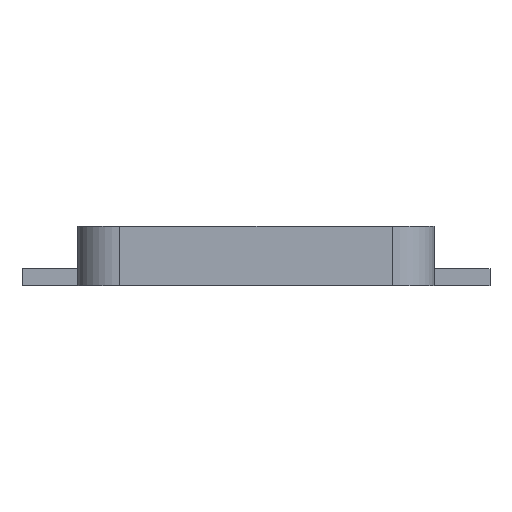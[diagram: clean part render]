
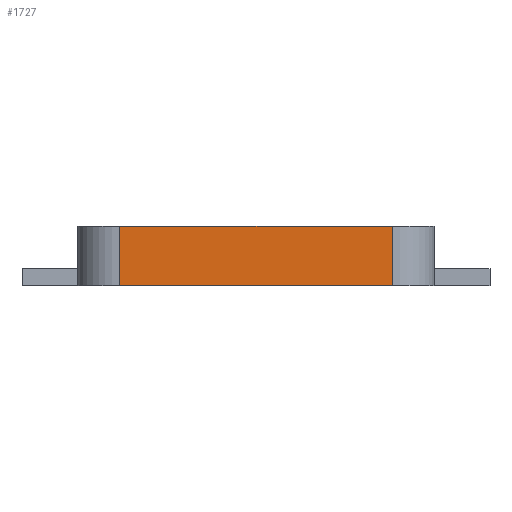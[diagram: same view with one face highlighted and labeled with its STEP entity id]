
A CAD part, front view. The second image highlights one B-rep face of the part: STEP entity #1727.
In plain terms, the highlighted planar face has unit normal (0, -1, 0).
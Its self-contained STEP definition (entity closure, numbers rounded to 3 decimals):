
#44 = CYLINDRICAL_SURFACE('',#45,5.);
#45 = AXIS2_PLACEMENT_3D('',#46,#47,#48);
#46 = CARTESIAN_POINT('',(-16.,-29.5,-27.5));
#47 = DIRECTION('',(0.,0.,1.));
#48 = DIRECTION('',(-1.,-0.,0.));
#72 = PLANE('',#73);
#73 = AXIS2_PLACEMENT_3D('',#74,#75,#76);
#74 = CARTESIAN_POINT('',(-21.,-34.5,-27.5));
#75 = DIRECTION('',(0.,0.,1.));
#76 = DIRECTION('',(1.,0.,0.));
#177 = PLANE('',#178);
#178 = AXIS2_PLACEMENT_3D('',#179,#180,#181);
#179 = CARTESIAN_POINT('',(-21.,-34.5,-20.5));
#180 = DIRECTION('',(0.,0.,1.));
#181 = DIRECTION('',(1.,0.,0.));
#193 = VERTEX_POINT('',#194);
#194 = CARTESIAN_POINT('',(-16.,-34.5,-27.5));
#216 = EDGE_CURVE('',#193,#217,#219,.T.);
#217 = VERTEX_POINT('',#218);
#218 = CARTESIAN_POINT('',(-16.,-34.5,-20.5));
#219 = SURFACE_CURVE('',#220,(#224,#231),.PCURVE_S1.);
#220 = LINE('',#221,#222);
#221 = CARTESIAN_POINT('',(-16.,-34.5,-27.5));
#222 = VECTOR('',#223,1.);
#223 = DIRECTION('',(0.,0.,1.));
#224 = PCURVE('',#44,#225);
#225 = DEFINITIONAL_REPRESENTATION('',(#226),#230);
#226 = LINE('',#227,#228);
#227 = CARTESIAN_POINT('',(1.571,0.));
#228 = VECTOR('',#229,1.);
#229 = DIRECTION('',(0.,1.));
#230 = ( GEOMETRIC_REPRESENTATION_CONTEXT(2) 
PARAMETRIC_REPRESENTATION_CONTEXT() REPRESENTATION_CONTEXT('2D SPACE',''
  ) );
#231 = PCURVE('',#232,#237);
#232 = PLANE('',#233);
#233 = AXIS2_PLACEMENT_3D('',#234,#235,#236);
#234 = CARTESIAN_POINT('',(-21.,-34.5,-27.5));
#235 = DIRECTION('',(0.,1.,0.));
#236 = DIRECTION('',(0.,0.,1.));
#237 = DEFINITIONAL_REPRESENTATION('',(#238),#242);
#238 = LINE('',#239,#240);
#239 = CARTESIAN_POINT('',(0.,5.));
#240 = VECTOR('',#241,1.);
#241 = DIRECTION('',(1.,0.));
#242 = ( GEOMETRIC_REPRESENTATION_CONTEXT(2) 
PARAMETRIC_REPRESENTATION_CONTEXT() REPRESENTATION_CONTEXT('2D SPACE',''
  ) );
#272 = EDGE_CURVE('',#217,#273,#275,.T.);
#273 = VERTEX_POINT('',#274);
#274 = CARTESIAN_POINT('',(16.,-34.5,-20.5));
#275 = SURFACE_CURVE('',#276,(#280,#287),.PCURVE_S1.);
#276 = LINE('',#277,#278);
#277 = CARTESIAN_POINT('',(-21.,-34.5,-20.5));
#278 = VECTOR('',#279,1.);
#279 = DIRECTION('',(1.,0.,0.));
#280 = PCURVE('',#177,#281);
#281 = DEFINITIONAL_REPRESENTATION('',(#282),#286);
#282 = LINE('',#283,#284);
#283 = CARTESIAN_POINT('',(0.,0.));
#284 = VECTOR('',#285,1.);
#285 = DIRECTION('',(1.,0.));
#286 = ( GEOMETRIC_REPRESENTATION_CONTEXT(2) 
PARAMETRIC_REPRESENTATION_CONTEXT() REPRESENTATION_CONTEXT('2D SPACE',''
  ) );
#287 = PCURVE('',#232,#288);
#288 = DEFINITIONAL_REPRESENTATION('',(#289),#293);
#289 = LINE('',#290,#291);
#290 = CARTESIAN_POINT('',(7.,0.));
#291 = VECTOR('',#292,1.);
#292 = DIRECTION('',(0.,1.));
#293 = ( GEOMETRIC_REPRESENTATION_CONTEXT(2) 
PARAMETRIC_REPRESENTATION_CONTEXT() REPRESENTATION_CONTEXT('2D SPACE',''
  ) );
#316 = CYLINDRICAL_SURFACE('',#317,5.);
#317 = AXIS2_PLACEMENT_3D('',#318,#319,#320);
#318 = CARTESIAN_POINT('',(16.,-29.5,-27.5));
#319 = DIRECTION('',(0.,0.,1.));
#320 = DIRECTION('',(1.,0.,-0.));
#1127 = EDGE_CURVE('',#193,#1128,#1130,.T.);
#1128 = VERTEX_POINT('',#1129);
#1129 = CARTESIAN_POINT('',(16.,-34.5,-27.5));
#1130 = SURFACE_CURVE('',#1131,(#1135,#1142),.PCURVE_S1.);
#1131 = LINE('',#1132,#1133);
#1132 = CARTESIAN_POINT('',(-21.,-34.5,-27.5));
#1133 = VECTOR('',#1134,1.);
#1134 = DIRECTION('',(1.,0.,0.));
#1135 = PCURVE('',#72,#1136);
#1136 = DEFINITIONAL_REPRESENTATION('',(#1137),#1141);
#1137 = LINE('',#1138,#1139);
#1138 = CARTESIAN_POINT('',(0.,0.));
#1139 = VECTOR('',#1140,1.);
#1140 = DIRECTION('',(1.,0.));
#1141 = ( GEOMETRIC_REPRESENTATION_CONTEXT(2) 
PARAMETRIC_REPRESENTATION_CONTEXT() REPRESENTATION_CONTEXT('2D SPACE',''
  ) );
#1142 = PCURVE('',#232,#1143);
#1143 = DEFINITIONAL_REPRESENTATION('',(#1144),#1148);
#1144 = LINE('',#1145,#1146);
#1145 = CARTESIAN_POINT('',(0.,0.));
#1146 = VECTOR('',#1147,1.);
#1147 = DIRECTION('',(0.,1.));
#1148 = ( GEOMETRIC_REPRESENTATION_CONTEXT(2) 
PARAMETRIC_REPRESENTATION_CONTEXT() REPRESENTATION_CONTEXT('2D SPACE',''
  ) );
#1727 = ADVANCED_FACE('',(#1728),#232,.F.);
#1728 = FACE_BOUND('',#1729,.F.);
#1729 = EDGE_LOOP('',(#1730,#1731,#1732,#1733));
#1730 = ORIENTED_EDGE('',*,*,#1127,.F.);
#1731 = ORIENTED_EDGE('',*,*,#216,.T.);
#1732 = ORIENTED_EDGE('',*,*,#272,.T.);
#1733 = ORIENTED_EDGE('',*,*,#1734,.F.);
#1734 = EDGE_CURVE('',#1128,#273,#1735,.T.);
#1735 = SURFACE_CURVE('',#1736,(#1740,#1747),.PCURVE_S1.);
#1736 = LINE('',#1737,#1738);
#1737 = CARTESIAN_POINT('',(16.,-34.5,-27.5));
#1738 = VECTOR('',#1739,1.);
#1739 = DIRECTION('',(0.,0.,1.));
#1740 = PCURVE('',#232,#1741);
#1741 = DEFINITIONAL_REPRESENTATION('',(#1742),#1746);
#1742 = LINE('',#1743,#1744);
#1743 = CARTESIAN_POINT('',(0.,37.));
#1744 = VECTOR('',#1745,1.);
#1745 = DIRECTION('',(1.,0.));
#1746 = ( GEOMETRIC_REPRESENTATION_CONTEXT(2) 
PARAMETRIC_REPRESENTATION_CONTEXT() REPRESENTATION_CONTEXT('2D SPACE',''
  ) );
#1747 = PCURVE('',#316,#1748);
#1748 = DEFINITIONAL_REPRESENTATION('',(#1749),#1753);
#1749 = LINE('',#1750,#1751);
#1750 = CARTESIAN_POINT('',(-1.571,0.));
#1751 = VECTOR('',#1752,1.);
#1752 = DIRECTION('',(-0.,1.));
#1753 = ( GEOMETRIC_REPRESENTATION_CONTEXT(2) 
PARAMETRIC_REPRESENTATION_CONTEXT() REPRESENTATION_CONTEXT('2D SPACE',''
  ) );
